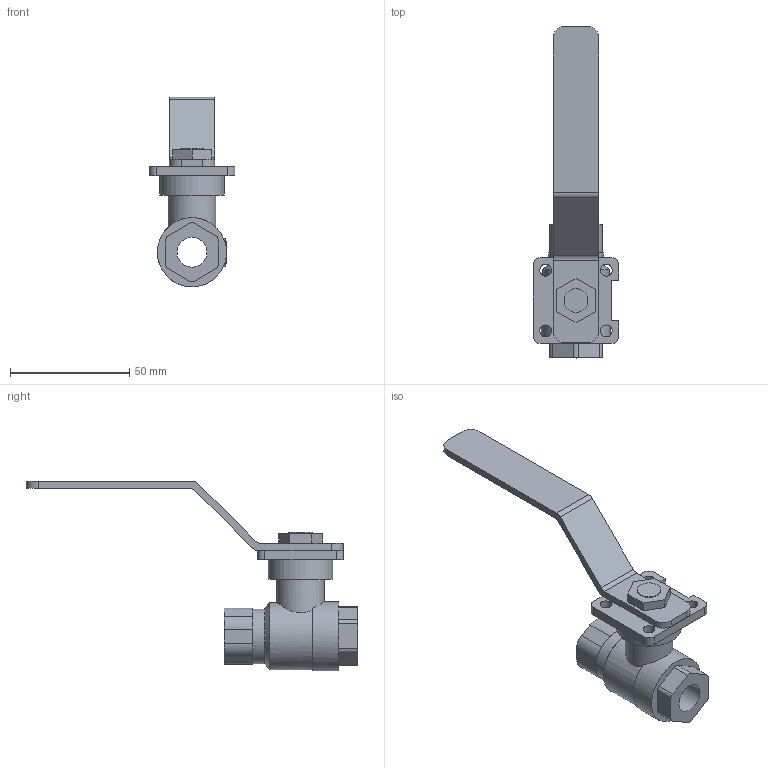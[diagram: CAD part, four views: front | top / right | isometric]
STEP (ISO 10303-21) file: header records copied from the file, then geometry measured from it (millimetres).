
FILE_DESCRIPTION(('STEP AP203'), '1');
FILE_NAME('3D_7015-010-63', '', ('UNSPECIFIED'), ('UNSPECIFIED'), 'C3D Converter', 'C3D Toolkit', '');
FILE_SCHEMA(('CONFIG_CONTROL_DESIGN'));
Length unit declared in the file: millimetre
Bounding box: 36 x 139 x 79.48 mm (x, y, z)
Volume: 45182.5 mm3; surface area: 18096.6 mm2
Topology: 11 solids, 11 shells, 933 faces, 2711 edges, 1804 vertices
Faces by surface type: plane 897, cylinder 35, cone 1
Full cylindrical faces by diameter (mm): 5 x4, 10 x1, 12.5 x1, 20 x1, 23 x1, 27 x1, 28 x1, 29 x1
Entity records: 38071 total; most frequent: CARTESIAN_POINT 5765, ORIENTED_EDGE 5398, DIRECTION 4665, EDGE_CURVE 2699, LINE 2595, VECTOR 2595, VERTEX_POINT 1804, AXIS2_PLACEMENT_3D 1035
